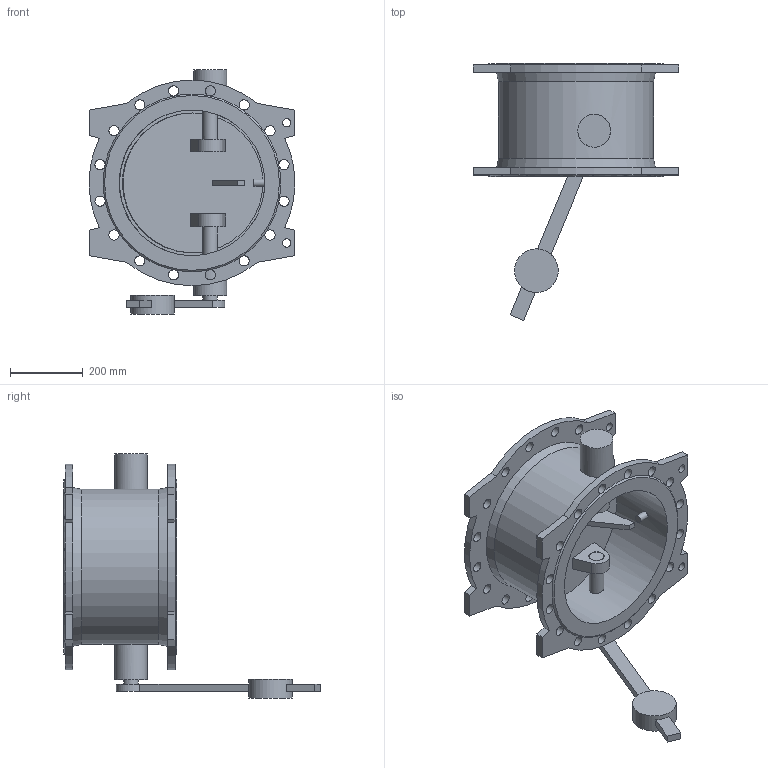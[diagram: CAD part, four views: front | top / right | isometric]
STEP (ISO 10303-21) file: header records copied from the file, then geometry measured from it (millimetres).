
FILE_DESCRIPTION(('STEP AP203'), '1');
FILE_NAME('Êëàïàí 015F.PV DN400 PN10 ñ ïðîòèâîâåñîì', '', ('UNSPECIFIED'), ('UNSPECIFIED'), 'ASCON STEP Converter 1.6', 'ASCON Math Kernel', '');
FILE_SCHEMA(('CONFIG_CONTROL_DESIGN'));
Length unit declared in the file: millimetre
Bounding box: 565 x 705 x 670 mm (x, y, z)
Volume: 14851115.1 mm3; surface area: 1895825.6 mm2
Topology: 1 solids, 1 shells, 128 faces, 417 edges, 277 vertices
Faces by surface type: plane 63, cylinder 58, cone 4, extrusion 2, bspline 1
Full cylindrical faces by diameter (mm): 20 x1, 23 x4, 28 x32, 40 x3, 42 x2, 90 x2, 120 x1, 400 x1, 426 x1
Entity records: 7503 total; most frequent: CARTESIAN_POINT 2759, DIRECTION 754, ORIENTED_EDGE 724, EDGE_CURVE 362, AXIS2_PLACEMENT_3D 311, VERTEX_POINT 276, EDGE_LOOP 246, CIRCLE 185
